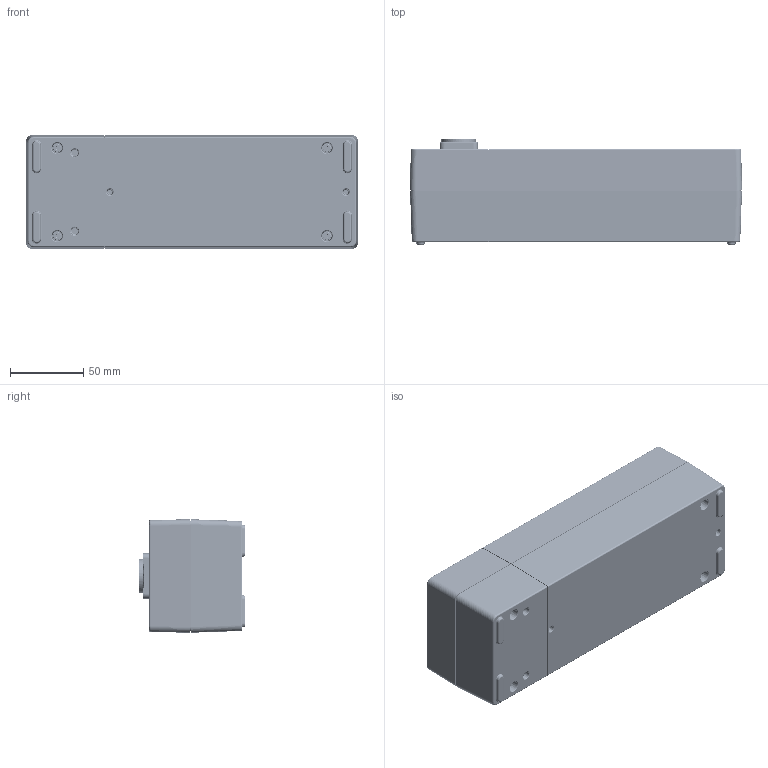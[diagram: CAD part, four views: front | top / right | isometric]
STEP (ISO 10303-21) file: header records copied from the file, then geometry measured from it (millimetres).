
FILE_DESCRIPTION (( 'STEP AP214' ), '1' );
FILE_NAME ('1.Battery Dock.STEP', '2025-09-25T06:29:48', ( '' ), ( '' ), 'SwSTEP 2.0', 'SolidWorks 2016', '' );
FILE_SCHEMA (( 'AUTOMOTIVE_DESIGN' ));
Length unit declared in the file: millimetre
Products named in the file (11): 29601-Screw-KM3X12; 38786-Fixed Silicone ring; 36067-Screw-PM3X6; 38529-Charging Box-Bottom; 38530-Charging Box-Top; 38532-Spacer column; 17121-NAC3MPX-TOP; 29816-Torx combination screw-M3X12; CT2-998; 38531-Mylar sheet; 1.Battery Dock
Assembly tree (18 placements, depth 2):
  1.Battery Dock
    38529-Charging Box-Bottom
    38531-Mylar sheet
    CT2-998
    36067-Screw-PM3X6  x2
    38532-Spacer column
    38530-Charging Box-Top
    17121-NAC3MPX-TOP
    29601-Screw-KM3X12  x2
    29816-Torx combination screw-M3X12  x4
    38786-Fixed Silicone ring  x4
Bounding box: 226.44 x 72.5 x 77.44 mm (x, y, z)
Volume: 199166.4 mm3; surface area: 262281.8 mm2
Topology: 40 solids, 57 shells, 6748 faces, 19501 edges, 12596 vertices
Faces by surface type: plane 3252, cylinder 2166, bspline 700, cone 522, torus 106, sphere 2
Entity records: 293587 total; most frequent: CARTESIAN_POINT 75115, ORIENTED_EDGE 35730, DIRECTION 29940, EDGE_CURVE 17865, VERTEX_POINT 11659, LINE 11394, VECTOR 11394, AXIS2_PLACEMENT_3D 9273
